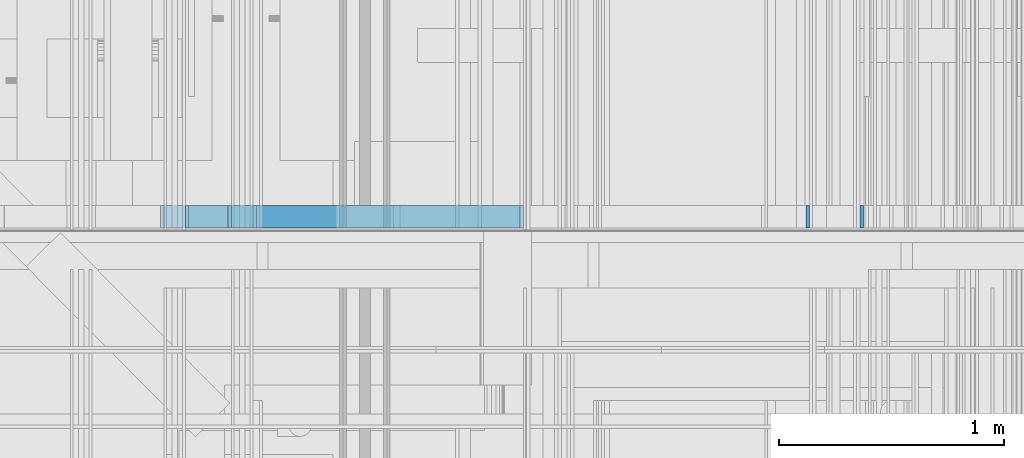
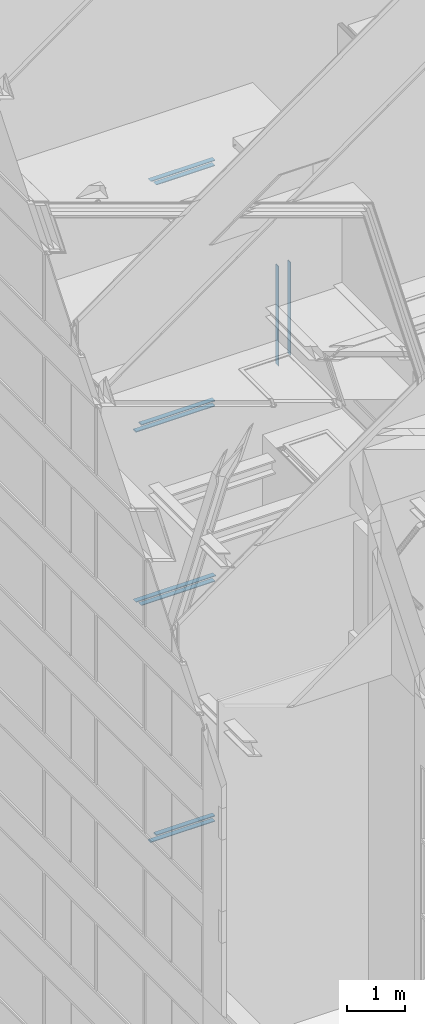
# One storey, part 87 of 583: 10 building element parts, 5 elements without a shape of their own.
"""IFC2X3 building model written with IfcOpenShell, lengths in metres."""

from ifc_helpers import new_model, entity, si_unit, converted_unit, derived_unit, money_unit, direction, frame, frame_2d, origin_with_axes, place, context, subcontext, project, spatial, polyline, rectangle, outline, extrude, material, type_object, element, aggregate, save


model = new_model("IFC2X3")

# Units and contexts
model_context = context("Model", 3, precision=1e-05, world=origin_with_axes(), true_north=direction((0.0, 1.0)))
body_context = subcontext(model_context, "Body", "Model", "MODEL_VIEW", scale=1.0)
ifc_project = project(units=[si_unit("LENGTHUNIT", "METRE"), si_unit("AREAUNIT", "SQUARE_METRE"), si_unit("VOLUMEUNIT", "CUBIC_METRE"), si_unit("ABSORBEDDOSEUNIT", "GRAY"), si_unit("AMOUNTOFSUBSTANCEUNIT", "MOLE"), si_unit("DOSEEQUIVALENTUNIT", "SIEVERT"), si_unit("ELECTRICCAPACITANCEUNIT", "FARAD"), si_unit("ELECTRICCHARGEUNIT", "COULOMB"), si_unit("ELECTRICCONDUCTANCEUNIT", "SIEMENS"), si_unit("ELECTRICCURRENTUNIT", "AMPERE"), si_unit("ELECTRICRESISTANCEUNIT", "OHM"), si_unit("ELECTRICVOLTAGEUNIT", "VOLT"), si_unit("ENERGYUNIT", "JOULE"), si_unit("FORCEUNIT", "NEWTON"), si_unit("FREQUENCYUNIT", "HERTZ"), si_unit("ILLUMINANCEUNIT", "LUX"), si_unit("INDUCTANCEUNIT", "HENRY"), si_unit("LUMINOUSFLUXUNIT", "LUMEN"), si_unit("LUMINOUSINTENSITYUNIT", "CANDELA"), si_unit("MAGNETICFLUXDENSITYUNIT", "TESLA"), si_unit("MAGNETICFLUXUNIT", "WEBER"), si_unit("MASSUNIT", "GRAM"), converted_unit("PLANEANGLEUNIT", "degree", entity("IfcReal", 0.0174532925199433), si_unit("PLANEANGLEUNIT", "RADIAN"), dimensions=[0, 0, 0, 0, 0, 0, 0]), si_unit("POWERUNIT", "WATT"), si_unit("PRESSUREUNIT", "PASCAL"), si_unit("RADIOACTIVITYUNIT", "BECQUEREL"), si_unit("SOLIDANGLEUNIT", "STERADIAN"), si_unit("THERMODYNAMICTEMPERATUREUNIT", "KELVIN"), si_unit("TIMEUNIT", "SECOND"), derived_unit("ACCELERATIONUNIT", [(si_unit("LENGTHUNIT", "METRE"), 1), (si_unit("TIMEUNIT", "SECOND"), -2)]), derived_unit("ANGULARVELOCITYUNIT", [(converted_unit("PLANEANGLEUNIT", "degree", entity("IfcReal", 0.0174532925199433), si_unit("PLANEANGLEUNIT", "RADIAN"), dimensions=[0, 0, 0, 0, 0, 0, 0]), 1), (si_unit("TIMEUNIT", "SECOND"), -1)]), derived_unit("CURVATUREUNIT", [(converted_unit("PLANEANGLEUNIT", "degree", entity("IfcReal", 0.0174532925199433), si_unit("PLANEANGLEUNIT", "RADIAN"), dimensions=[0, 0, 0, 0, 0, 0, 0]), 1), (si_unit("LENGTHUNIT", "METRE"), -1)]), derived_unit("DYNAMICVISCOSITYUNIT", [(si_unit("PRESSUREUNIT", "PASCAL"), 1), (si_unit("TIMEUNIT", "SECOND"), 1)]), derived_unit("HEATFLUXDENSITYUNIT", [(si_unit("POWERUNIT", "WATT"), 1), (si_unit("LENGTHUNIT", "METRE"), -2)]), derived_unit("HEATINGVALUEUNIT", [(si_unit("ENERGYUNIT", "JOULE"), 1), (si_unit("MASSUNIT", "GRAM"), -1)]), derived_unit("INTEGERCOUNTRATEUNIT", [(si_unit("TIMEUNIT", "SECOND"), -1)]), derived_unit("IONCONCENTRATIONUNIT", [(si_unit("MASSUNIT", "GRAM"), 1), (si_unit("VOLUMEUNIT", "CUBIC_METRE"), -1)]), derived_unit("ISOTHERMALMOISTURECAPACITYUNIT", [(si_unit("VOLUMEUNIT", "CUBIC_METRE"), 1), (si_unit("MASSUNIT", "GRAM"), -1)]), derived_unit("KINEMATICVISCOSITYUNIT", [(si_unit("AREAUNIT", "SQUARE_METRE"), 1), (si_unit("TIMEUNIT", "SECOND"), -1)]), derived_unit("LINEARFORCEUNIT", [(si_unit("FORCEUNIT", "NEWTON"), 1), (si_unit("LENGTHUNIT", "METRE"), -1)]), derived_unit("LINEARMOMENTUNIT", [(si_unit("FORCEUNIT", "NEWTON"), 1), (si_unit("LENGTHUNIT", "METRE"), -1)]), derived_unit("LINEARSTIFFNESSUNIT", [(si_unit("FORCEUNIT", "NEWTON"), 1), (si_unit("LENGTHUNIT", "METRE"), -1)]), derived_unit("LINEARVELOCITYUNIT", [(si_unit("LENGTHUNIT", "METRE"), 1), (si_unit("TIMEUNIT", "SECOND"), -1)]), derived_unit("LUMINOUSINTENSITYDISTRIBUTIONUNIT", [(si_unit("LUMINOUSINTENSITYUNIT", "CANDELA"), 1), (si_unit("LUMINOUSFLUXUNIT", "LUMEN"), -1)]), derived_unit("MASSDENSITYUNIT", [(si_unit("MASSUNIT", "GRAM"), 1), (si_unit("VOLUMEUNIT", "CUBIC_METRE"), -1)]), derived_unit("MASSFLOWRATEUNIT", [(si_unit("MASSUNIT", "GRAM"), 1), (si_unit("TIMEUNIT", "SECOND"), -1)]), derived_unit("MASSPERLENGTHUNIT", [(si_unit("MASSUNIT", "GRAM"), 1), (si_unit("LENGTHUNIT", "METRE"), -1)]), derived_unit("MODULUSOFELASTICITYUNIT", [(si_unit("FORCEUNIT", "NEWTON"), 1), (si_unit("AREAUNIT", "SQUARE_METRE"), -1)]), derived_unit("MODULUSOFLINEARSUBGRADEREACTIONUNIT", [(si_unit("FORCEUNIT", "NEWTON"), 1), (si_unit("LENGTHUNIT", "METRE"), -2)]), derived_unit("MODULUSOFROTATIONALSUBGRADEREACTIONUNIT", [(si_unit("FORCEUNIT", "NEWTON"), 1), (si_unit("LENGTHUNIT", "METRE"), 1)]), derived_unit("MODULUSOFSUBGRADEREACTIONUNIT", [(si_unit("FORCEUNIT", "NEWTON"), 1), (si_unit("VOLUMEUNIT", "CUBIC_METRE"), -1)]), derived_unit("MOISTUREDIFFUSIVITYUNIT", [(si_unit("VOLUMEUNIT", "CUBIC_METRE"), 1), (si_unit("TIMEUNIT", "SECOND"), -1)]), derived_unit("MOLECULARWEIGHTUNIT", [(si_unit("MASSUNIT", "GRAM"), 1), (si_unit("AMOUNTOFSUBSTANCEUNIT", "MOLE"), -1)]), derived_unit("PLANARFORCEUNIT", [(si_unit("FORCEUNIT", "NEWTON"), 1), (si_unit("LENGTHUNIT", "METRE"), -2)]), derived_unit("ROTATIONALFREQUENCYUNIT", [(si_unit("TIMEUNIT", "SECOND"), -1)]), derived_unit("ROTATIONALMASSUNIT", [(si_unit("MASSUNIT", "GRAM"), 1), (si_unit("LENGTHUNIT", "METRE"), 2)]), derived_unit("ROTATIONALSTIFFNESSUNIT", [(si_unit("FORCEUNIT", "NEWTON"), 1), (si_unit("LENGTHUNIT", "METRE"), 1), (converted_unit("PLANEANGLEUNIT", "degree", entity("IfcReal", 0.0174532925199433), si_unit("PLANEANGLEUNIT", "RADIAN"), dimensions=[0, 0, 0, 0, 0, 0, 0]), -1)]), derived_unit("SECTIONAREAINTEGRALUNIT", [(si_unit("LENGTHUNIT", "METRE"), 5)]), derived_unit("SECTIONMODULUSUNIT", [(si_unit("LENGTHUNIT", "METRE"), 3)]), derived_unit("SHEARMODULUSUNIT", [(si_unit("FORCEUNIT", "NEWTON"), 1), (si_unit("AREAUNIT", "SQUARE_METRE"), -1)]), derived_unit("SOUNDPOWERUNIT", [(si_unit("ENERGYUNIT", "JOULE"), 1), (si_unit("TIMEUNIT", "SECOND"), -1)]), derived_unit("SPECIFICHEATCAPACITYUNIT", [(si_unit("FORCEUNIT", "NEWTON"), 1), (si_unit("MASSUNIT", "GRAM"), -1), (si_unit("THERMODYNAMICTEMPERATUREUNIT", "KELVIN"), -1)]), derived_unit("TEMPERATUREGRADIENTUNIT", [(si_unit("THERMODYNAMICTEMPERATUREUNIT", "KELVIN"), 1), (si_unit("LENGTHUNIT", "METRE"), -1)]), derived_unit("THERMALADMITTANCEUNIT", [(si_unit("POWERUNIT", "WATT"), 1), (si_unit("AREAUNIT", "SQUARE_METRE"), -1), (si_unit("THERMODYNAMICTEMPERATUREUNIT", "KELVIN"), -1)]), derived_unit("THERMALCONDUCTANCEUNIT", [(si_unit("POWERUNIT", "WATT"), 1), (si_unit("LENGTHUNIT", "METRE"), -1), (si_unit("THERMODYNAMICTEMPERATUREUNIT", "KELVIN"), -1)]), derived_unit("THERMALEXPANSIONCOEFFICIENTUNIT", [(si_unit("THERMODYNAMICTEMPERATUREUNIT", "KELVIN"), -1)]), derived_unit("THERMALRESISTANCEUNIT", [(si_unit("AREAUNIT", "SQUARE_METRE"), 1), (si_unit("POWERUNIT", "WATT"), -1)]), derived_unit("THERMALTRANSMITTANCEUNIT", [(si_unit("POWERUNIT", "WATT"), 1), (si_unit("AREAUNIT", "SQUARE_METRE"), -1), (si_unit("THERMODYNAMICTEMPERATUREUNIT", "KELVIN"), -1)]), derived_unit("TORQUEUNIT", [(si_unit("FORCEUNIT", "NEWTON"), 1), (si_unit("LENGTHUNIT", "METRE"), 1)]), derived_unit("VAPORPERMEABILITYUNIT", [(si_unit("MASSUNIT", "GRAM"), 1), (si_unit("TIMEUNIT", "SECOND"), -1)]), derived_unit("VOLUMETRICFLOWRATEUNIT", [(si_unit("VOLUMEUNIT", "CUBIC_METRE"), 1), (si_unit("TIMEUNIT", "SECOND"), -1)]), derived_unit("WARPINGCONSTANTUNIT", [(si_unit("LENGTHUNIT", "METRE"), 6)]), derived_unit("WARPINGMOMENTUNIT", [(si_unit("FORCEUNIT", "NEWTON"), 1), (si_unit("LENGTHUNIT", "METRE"), 2)]), money_unit("GBP")], contexts=[model_context])

# Site, building, storey
site_placement = place(None, origin_with_axes())
site = spatial("IfcSite", under=ifc_project, at=site_placement, Name="Site", CompositionType="ELEMENT")
building_placement = place(site_placement, origin_with_axes())
building = spatial("IfcBuilding", under=site, at=building_placement, Name="Building01", CompositionType="ELEMENT")
storey_placement = place(building_placement, frame((0.0, 0.0, 20.78), z_axis=(0.0, 0.0, 1.0), x_axis=(1.0, 0.0, 0.0)))
storey = spatial("IfcBuildingStorey", under=building, at=storey_placement, Name="RL", CompositionType="ELEMENT", Elevation=20.78)

# Wall, building element parts
wall_type_1 = type_object("IfcWallType", Name="SHE_A-Walls_Type01c_Partywall_225mm_twin_tall", PredefinedType="NOTDEFINED")
wall_1_placement = place(storey_placement, frame((6.337, 12.13, -2.95), z_axis=(0.0, 1.0, 0.0), x_axis=(0.0, 0.0, -1.0)))
wall_1 = element("IfcWall", 1, at=wall_1_placement, inside=storey, type_object=wall_type_1, Name="1C", ObjectType="SHE_A-Walls_Type01c_Partywall_225mm_twin_tall")
ifc_material = material(Name="A_BSUK_Walls_Timber")
placement_1 = place(wall_1_placement, origin_with_axes())
building_element_part_1 = element("IfcBuildingElementPart", 2, at=placement_1, material=ifc_material, Name="2", context=body_context, shape_type="SweptSolid", body=[
    extrude(rectangle(XDim=2.115, YDim=0.015, at=frame_2d((1.0725, 0.0945), x_axis=(-1.0, 0.0))), frame((0.0, 0.0, 0.015), z_axis=(0.0, 0.0, 1.0), x_axis=(1.0, 0.0, 0.0)), (0.0, 0.0, 1.0), 0.1),
])
building_element_part_2 = element("IfcBuildingElementPart", 3, at=placement_1, material=ifc_material, Name="7", context=body_context, shape_type="SweptSolid", body=[
    extrude(rectangle(XDim=1.97, YDim=0.015, at=frame_2d((1.0, -0.1455), x_axis=(-1.0, 0.0))), frame((0.0, 0.0, 0.015), z_axis=(0.0, 0.0, 1.0), x_axis=(1.0, 0.0, 0.0)), (0.0, 0.0, 1.0), 0.1),
])
aggregate(wall_1, [building_element_part_1, building_element_part_2])

wall_type_2 = type_object("IfcWallType", Name="SHE_A-Walls_Type05a_Partition_95mm_tall", PredefinedType="NOTDEFINED")
wall_2_placement = place(storey_placement, frame((3.42, 12.13, -5.4325), z_axis=(0.0, 1.0, 0.0), x_axis=(1.0, 0.0, 0.0)))
wall_2 = element("IfcWall", 4, at=wall_2_placement, inside=storey, type_object=wall_type_2, Name="5A", ObjectType="SHE_A-Walls_Type05a_Partition_95mm_tall")
placement_2 = place(wall_2_placement, origin_with_axes())
building_element_part_3 = element("IfcBuildingElementPart", 5, at=placement_2, material=ifc_material, Name="2", context=body_context, shape_type="SweptSolid", body=[
    extrude(outline(polyline([(1.545, 0.05), (-0.05, 0.05), (-0.035, 0.035), (1.545, 0.035), (1.545, 0.05)])), frame((0.0, 0.0, 0.015), z_axis=(0.0, 0.0, 1.0), x_axis=(1.0, 0.0, 0.0)), (0.0, 0.0, 1.0), 0.1),
])
building_element_part_4 = element("IfcBuildingElementPart", 6, at=placement_2, material=ifc_material, Name="3", context=body_context, shape_type="SweptSolid", body=[
    extrude(outline(polyline([(1.545, -0.06), (0.06, -0.06), (0.075, -0.075), (1.545, -0.075), (1.545, -0.06)])), frame((0.0, 0.0, 0.015), z_axis=(0.0, 0.0, 1.0), x_axis=(1.0, 0.0, 0.0)), (0.0, 0.0, 1.0), 0.1),
])
aggregate(wall_2, [building_element_part_3, building_element_part_4])

wall_3_placement = place(storey_placement, frame((3.42, 12.13, -9.127464), z_axis=(0.0, 1.0, 0.0), x_axis=(1.0, 0.0, 0.0)))
wall_3 = element("IfcWall", 7, at=wall_3_placement, inside=storey, type_object=wall_type_2, Name="5A", ObjectType="SHE_A-Walls_Type05a_Partition_95mm_tall")
placement_3 = place(wall_3_placement, origin_with_axes())
building_element_part_5 = element("IfcBuildingElementPart", 8, at=placement_3, material=ifc_material, Name="2", context=body_context, shape_type="SweptSolid", body=[
    extrude(outline(polyline([(1.56, -0.035), (-0.035, -0.035), (-0.05, -0.05), (1.56, -0.05), (1.56, -0.035)])), frame((0.0, 0.0, 0.015), z_axis=(0.0, 0.0, 1.0), x_axis=(1.0, 0.0, 0.0)), (0.0, 0.0, 1.0), 0.1),
])
building_element_part_6 = element("IfcBuildingElementPart", 9, at=placement_3, material=ifc_material, Name="3", context=body_context, shape_type="SweptSolid", body=[
    extrude(outline(polyline([(1.545, 0.075), (0.075, 0.075), (0.06, 0.06), (1.545, 0.06), (1.545, 0.075)])), frame((0.0, 0.0, 0.015), z_axis=(0.0, 0.0, 1.0), x_axis=(1.0, 0.0, 0.0)), (0.0, 0.0, 1.0), 0.1),
])
aggregate(wall_3, [building_element_part_5, building_element_part_6])

wall_4_placement = place(storey_placement, frame((3.72, 12.13, -14.245), z_axis=(0.0, 1.0, 0.0), x_axis=(1.0, 0.0, 0.0)))
wall_4 = element("IfcWall", 10, at=wall_4_placement, inside=storey, type_object=wall_type_2, Name="5A", ObjectType="SHE_A-Walls_Type05a_Partition_95mm_tall")
placement_4 = place(wall_4_placement, origin_with_axes())
building_element_part_7 = element("IfcBuildingElementPart", 11, at=placement_4, material=ifc_material, Name="2", context=body_context, shape_type="SweptSolid", body=[
    extrude(outline(polyline([(1.245, 0.05), (-0.05, 0.05), (-0.035, 0.035), (1.245, 0.035), (1.245, 0.05)])), frame((0.0, 0.0, 0.015), z_axis=(0.0, 0.0, 1.0), x_axis=(1.0, 0.0, 0.0)), (0.0, 0.0, 1.0), 0.1),
])
building_element_part_8 = element("IfcBuildingElementPart", 12, at=placement_4, material=ifc_material, Name="3", context=body_context, shape_type="SweptSolid", body=[
    extrude(outline(polyline([(1.245, -0.06), (0.06, -0.06), (0.075, -0.075), (1.245, -0.075), (1.245, -0.06)])), frame((0.0, 0.0, 0.015), z_axis=(0.0, 0.0, 1.0), x_axis=(1.0, 0.0, 0.0)), (0.0, 0.0, 1.0), 0.1),
])
aggregate(wall_4, [building_element_part_7, building_element_part_8])

wall_5_placement = place(storey_placement, frame((3.72, 12.13, -0.305), z_axis=(0.0, 1.0, 0.0), x_axis=(1.0, 0.0, 0.0)))
wall_5 = element("IfcWall", 13, at=wall_5_placement, inside=storey, type_object=wall_type_2, Name="5A", ObjectType="SHE_A-Walls_Type05a_Partition_95mm_tall")
placement_5 = place(wall_5_placement, origin_with_axes())
building_element_part_9 = element("IfcBuildingElementPart", 14, at=placement_5, material=ifc_material, Name="2", context=body_context, shape_type="SweptSolid", body=[
    extrude(outline(polyline([(1.245, -0.035), (-0.035, -0.035), (-0.05, -0.05), (1.245, -0.05), (1.245, -0.035)])), frame((0.0, 0.0, 0.015), z_axis=(0.0, 0.0, 1.0), x_axis=(1.0, 0.0, 0.0)), (0.0, 0.0, 1.0), 0.1),
])
building_element_part_10 = element("IfcBuildingElementPart", 15, at=placement_5, material=ifc_material, Name="3", context=body_context, shape_type="SweptSolid", body=[
    extrude(outline(polyline([(1.245, 0.075), (0.075, 0.075), (0.06, 0.06), (1.245, 0.06), (1.245, 0.075)])), frame((0.0, 0.0, 0.015), z_axis=(0.0, 0.0, 1.0), x_axis=(1.0, 0.0, 0.0)), (0.0, 0.0, 1.0), 0.1),
])
aggregate(wall_5, [building_element_part_9, building_element_part_10])

save(model, "model.ifc")
